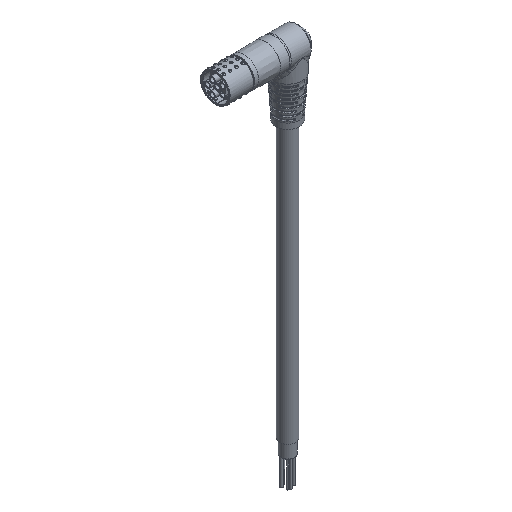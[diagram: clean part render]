
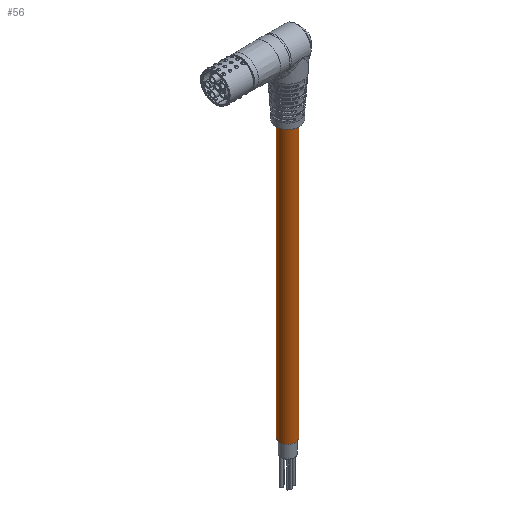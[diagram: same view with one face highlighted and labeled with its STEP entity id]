
A CAD part, isometric view. The second image highlights one B-rep face of the part: STEP entity #56.
In plain terms, the highlighted cylindrical face has radius 5.8 mm (diameter 11.6 mm), a full revolution.
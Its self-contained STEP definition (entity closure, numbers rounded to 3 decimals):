
#56 = ADVANCED_FACE ( 'NONE', ( #32605, #32267 ), #27214, .T. ) ;
#395 = CIRCLE ( 'NONE', #14253, 5.8 ) ;
#982 = CARTESIAN_POINT ( 'NONE',  ( -39.41, 10.688, -46.232 ) ) ;
#1368 = AXIS2_PLACEMENT_3D ( 'NONE', #33504, #9753, #1923 ) ;
#1923 = DIRECTION ( 'NONE',  ( 0.48, 0.877, 0. ) ) ;
#4764 = EDGE_CURVE ( 'NONE', #10573, #10573, #32868, .T. ) ;
#5342 = ORIENTED_EDGE ( 'NONE', *, *, #22579, .F. ) ;
#9753 = DIRECTION ( 'NONE',  ( 0., 0., 1. ) ) ;
#10573 = VERTEX_POINT ( 'NONE', #18710 ) ;
#14253 = AXIS2_PLACEMENT_3D ( 'NONE', #20594, #20433, #28388 ) ;
#15099 = EDGE_LOOP ( 'NONE', ( #5342 ) ) ;
#16472 = EDGE_LOOP ( 'NONE', ( #33700 ) ) ;
#18710 = CARTESIAN_POINT ( 'NONE',  ( -39.41, 10.688, -246.232 ) ) ;
#20433 = DIRECTION ( 'NONE',  ( 0., 0., 1. ) ) ;
#20594 = CARTESIAN_POINT ( 'NONE',  ( -42.195, 5.601, -46.232 ) ) ;
#22132 = VERTEX_POINT ( 'NONE', #982 ) ;
#22579 = EDGE_CURVE ( 'NONE', #22132, #22132, #395, .T. ) ;
#27049 = DIRECTION ( 'NONE',  ( 0.48, 0.877, 0. ) ) ;
#27214 = CYLINDRICAL_SURFACE ( 'NONE', #30083, 5.8 ) ;
#28388 = DIRECTION ( 'NONE',  ( 0.48, 0.877, 0. ) ) ;
#29656 = CARTESIAN_POINT ( 'NONE',  ( -42.195, 5.601, -246.232 ) ) ;
#30083 = AXIS2_PLACEMENT_3D ( 'NONE', #29656, #32431, #27049 ) ;
#32267 = FACE_OUTER_BOUND ( 'NONE', #15099, .T. ) ;
#32431 = DIRECTION ( 'NONE',  ( 0., 0., 1. ) ) ;
#32605 = FACE_OUTER_BOUND ( 'NONE', #16472, .T. ) ;
#32868 = CIRCLE ( 'NONE', #1368, 5.8 ) ;
#33504 = CARTESIAN_POINT ( 'NONE',  ( -42.195, 5.601, -246.232 ) ) ;
#33700 = ORIENTED_EDGE ( 'NONE', *, *, #4764, .T. ) ;
